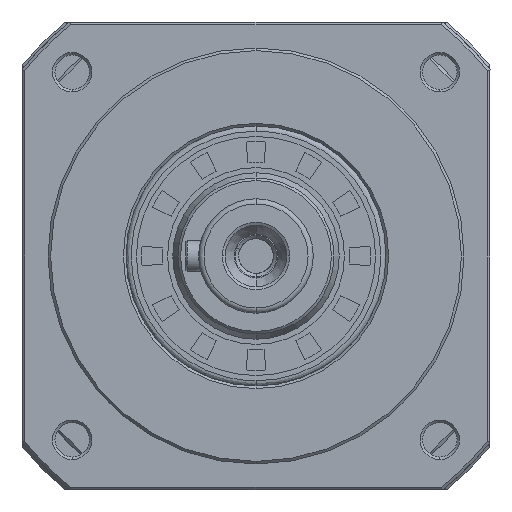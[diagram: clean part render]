
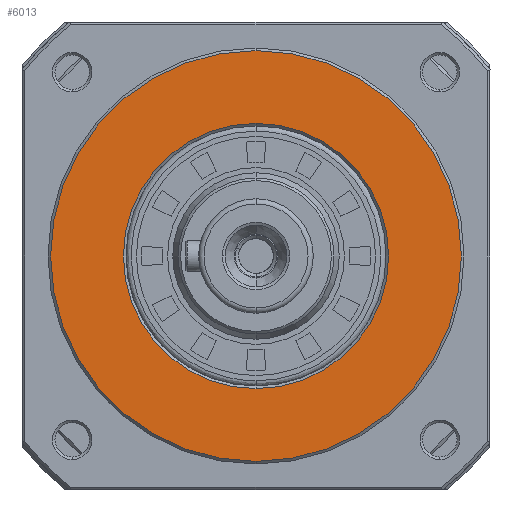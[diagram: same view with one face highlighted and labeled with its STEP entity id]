
A CAD part, left-side view. The second image highlights one B-rep face of the part: STEP entity #6013.
In plain terms, the highlighted planar face has unit normal (-1, 0, 0).
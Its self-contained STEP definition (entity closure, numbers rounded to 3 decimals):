
#32 = EDGE_LOOP ( 'NONE', ( #97105, #18164 ) ) ;
#2243 = CARTESIAN_POINT ( 'NONE',  ( 0., 0., 39.5 ) ) ;
#4455 = CIRCLE ( 'NONE', #96904, 39.5 ) ;
#5182 = CARTESIAN_POINT ( 'NONE',  ( 0., -39.974, 39.974 ) ) ;
#5556 = AXIS2_PLACEMENT_3D ( 'NONE', #5182, #28340, #66047 ) ;
#6013 = ADVANCED_FACE ( 'NONE', ( #58197, #38895 ), #50243, .F. ) ;
#9901 = CARTESIAN_POINT ( 'NONE',  ( 0., 0., 25.5 ) ) ;
#14147 = CARTESIAN_POINT ( 'NONE',  ( 0., 0., 0. ) ) ;
#17114 = VERTEX_POINT ( 'NONE', #2243 ) ;
#18164 = ORIENTED_EDGE ( 'NONE', *, *, #46012, .T. ) ;
#20229 = CARTESIAN_POINT ( 'NONE',  ( 0., 0., -25.5 ) ) ;
#23342 = AXIS2_PLACEMENT_3D ( 'NONE', #14147, #68286, #91525 ) ;
#24873 = ORIENTED_EDGE ( 'NONE', *, *, #59122, .F. ) ;
#26022 = EDGE_CURVE ( 'NONE', #46869, #17114, #88865, .T. ) ;
#28340 = DIRECTION ( 'NONE',  ( 1., 0., 0. ) ) ;
#28408 = CARTESIAN_POINT ( 'NONE',  ( 0., 0., 0. ) ) ;
#32807 = CARTESIAN_POINT ( 'NONE',  ( 0., 0., -39.5 ) ) ;
#38895 = FACE_OUTER_BOUND ( 'NONE', #32, .T. ) ;
#40268 = VERTEX_POINT ( 'NONE', #9901 ) ;
#46012 = EDGE_CURVE ( 'NONE', #17114, #46869, #4455, .T. ) ;
#46726 = VERTEX_POINT ( 'NONE', #20229 ) ;
#46869 = VERTEX_POINT ( 'NONE', #32807 ) ;
#49766 = CIRCLE ( 'NONE', #80064, 25.5 ) ;
#50243 = PLANE ( 'NONE',  #5556 ) ;
#54973 = CARTESIAN_POINT ( 'NONE',  ( 0., 0., 0. ) ) ;
#58197 = FACE_BOUND ( 'NONE', #89278, .T. ) ;
#59122 = EDGE_CURVE ( 'NONE', #46726, #40268, #49766, .T. ) ;
#61649 = EDGE_CURVE ( 'NONE', #40268, #46726, #81125, .T. ) ;
#63599 = CARTESIAN_POINT ( 'NONE',  ( 0., 0., 0. ) ) ;
#66047 = DIRECTION ( 'NONE',  ( 0., 0., -1. ) ) ;
#68286 = DIRECTION ( 'NONE',  ( -1., 0., 0. ) ) ;
#70092 = DIRECTION ( 'NONE',  ( -1., 0., 0. ) ) ;
#71347 = DIRECTION ( 'NONE',  ( -1., 0., 0. ) ) ;
#76986 = AXIS2_PLACEMENT_3D ( 'NONE', #63599, #71347, #78751 ) ;
#78751 = DIRECTION ( 'NONE',  ( 0., 0., 1. ) ) ;
#80064 = AXIS2_PLACEMENT_3D ( 'NONE', #54973, #70092, #86277 ) ;
#81125 = CIRCLE ( 'NONE', #76986, 25.5 ) ;
#82272 = DIRECTION ( 'NONE',  ( -1., 0., 0. ) ) ;
#86277 = DIRECTION ( 'NONE',  ( 0., 0., 1. ) ) ;
#88865 = CIRCLE ( 'NONE', #23342, 39.5 ) ;
#89278 = EDGE_LOOP ( 'NONE', ( #98832, #24873 ) ) ;
#90001 = DIRECTION ( 'NONE',  ( 0., 0., -1. ) ) ;
#91525 = DIRECTION ( 'NONE',  ( 0., 0., -1. ) ) ;
#96904 = AXIS2_PLACEMENT_3D ( 'NONE', #28408, #82272, #90001 ) ;
#97105 = ORIENTED_EDGE ( 'NONE', *, *, #26022, .T. ) ;
#98832 = ORIENTED_EDGE ( 'NONE', *, *, #61649, .F. ) ;
